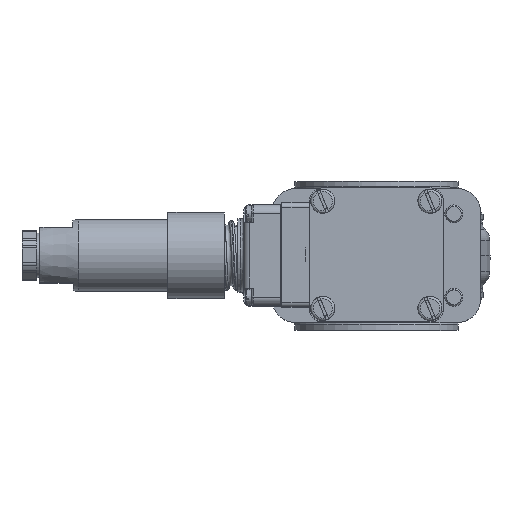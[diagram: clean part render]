
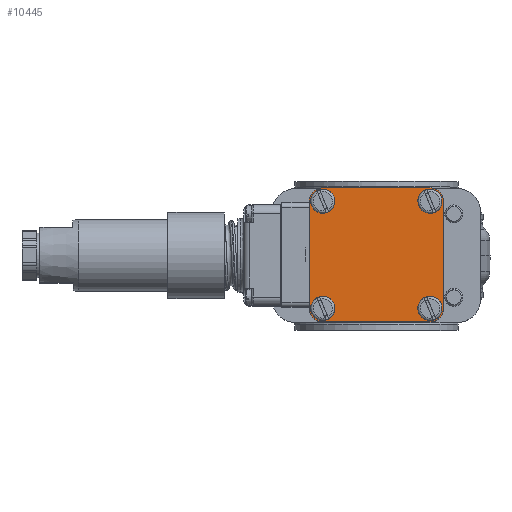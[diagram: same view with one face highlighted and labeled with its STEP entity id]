
A CAD part, top view. The second image highlights one B-rep face of the part: STEP entity #10445.
In plain terms, the highlighted planar face has unit normal (0, 0, 1) as drawn and (-1, 0, 0) by its records, which use the part's own axes.
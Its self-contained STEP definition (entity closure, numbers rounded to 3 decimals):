
#6396=LINE('',#40812,#8381);
#6397=LINE('',#40817,#8382);
#6398=LINE('',#40821,#8383);
#6399=LINE('',#40825,#8384);
#8381=VECTOR('',#32868,1.);
#8382=VECTOR('',#32871,1.);
#8383=VECTOR('',#32874,1.);
#8384=VECTOR('',#32877,1.);
#10445=ADVANCED_FACE('',(#13738,#13739,#13740,#13741,#13742),#11813,.T.);
#11813=PLANE('',#30234);
#13738=FACE_BOUND('',#14545,.T.);
#13739=FACE_BOUND('',#14546,.T.);
#13740=FACE_BOUND('',#14547,.T.);
#13741=FACE_BOUND('',#14548,.T.);
#13742=FACE_BOUND('',#14549,.T.);
#14545=EDGE_LOOP('',(#17044));
#14546=EDGE_LOOP('',(#17045));
#14547=EDGE_LOOP('',(#17046,#17047,#17048,#17049,#17050,#17051,#17052,#17053));
#14548=EDGE_LOOP('',(#17054));
#14549=EDGE_LOOP('',(#17055));
#17044=ORIENTED_EDGE('',*,*,#26094,.T.);
#17045=ORIENTED_EDGE('',*,*,#26095,.T.);
#17046=ORIENTED_EDGE('',*,*,#26096,.T.);
#17047=ORIENTED_EDGE('',*,*,#26097,.T.);
#17048=ORIENTED_EDGE('',*,*,#26098,.T.);
#17049=ORIENTED_EDGE('',*,*,#26099,.T.);
#17050=ORIENTED_EDGE('',*,*,#26100,.T.);
#17051=ORIENTED_EDGE('',*,*,#26101,.T.);
#17052=ORIENTED_EDGE('',*,*,#26102,.T.);
#17053=ORIENTED_EDGE('',*,*,#26103,.T.);
#17054=ORIENTED_EDGE('',*,*,#26104,.T.);
#17055=ORIENTED_EDGE('',*,*,#26105,.T.);
#23536=VERTEX_POINT('',#40809);
#23537=VERTEX_POINT('',#40811);
#23538=VERTEX_POINT('',#40813);
#23539=VERTEX_POINT('',#40814);
#23540=VERTEX_POINT('',#40816);
#23541=VERTEX_POINT('',#40818);
#23542=VERTEX_POINT('',#40820);
#23543=VERTEX_POINT('',#40822);
#23544=VERTEX_POINT('',#40824);
#23545=VERTEX_POINT('',#40826);
#23546=VERTEX_POINT('',#40829);
#23547=VERTEX_POINT('',#40831);
#26094=EDGE_CURVE('',#23536,#23536,#29282,.T.);
#26095=EDGE_CURVE('',#23537,#23537,#29283,.T.);
#26096=EDGE_CURVE('',#23538,#23539,#6396,.T.);
#26097=EDGE_CURVE('',#23539,#23540,#29284,.T.);
#26098=EDGE_CURVE('',#23540,#23541,#6397,.T.);
#26099=EDGE_CURVE('',#23541,#23542,#29285,.T.);
#26100=EDGE_CURVE('',#23542,#23543,#6398,.T.);
#26101=EDGE_CURVE('',#23543,#23544,#29286,.T.);
#26102=EDGE_CURVE('',#23544,#23545,#6399,.T.);
#26103=EDGE_CURVE('',#23545,#23538,#29287,.T.);
#26104=EDGE_CURVE('',#23546,#23546,#29288,.T.);
#26105=EDGE_CURVE('',#23547,#23547,#29289,.T.);
#29282=CIRCLE('',#30226,2.8);
#29283=CIRCLE('',#30227,2.8);
#29284=CIRCLE('',#30228,4.5);
#29285=CIRCLE('',#30229,4.5);
#29286=CIRCLE('',#30230,4.5);
#29287=CIRCLE('',#30231,4.5);
#29288=CIRCLE('',#30232,2.8);
#29289=CIRCLE('',#30233,2.8);
#30226=AXIS2_PLACEMENT_3D('',#40808,#32864,#32865);
#30227=AXIS2_PLACEMENT_3D('',#40810,#32866,#32867);
#30228=AXIS2_PLACEMENT_3D('',#40815,#32869,#32870);
#30229=AXIS2_PLACEMENT_3D('',#40819,#32872,#32873);
#30230=AXIS2_PLACEMENT_3D('',#40823,#32875,#32876);
#30231=AXIS2_PLACEMENT_3D('',#40827,#32878,#32879);
#30232=AXIS2_PLACEMENT_3D('',#40828,#32880,#32881);
#30233=AXIS2_PLACEMENT_3D('',#40830,#32882,#32883);
#30234=AXIS2_PLACEMENT_3D('',#40832,#32884,#32885);
#32864=DIRECTION('',(1.,0.,0.));
#32865=DIRECTION('',(0.,0.,1.));
#32866=DIRECTION('',(1.,0.,0.));
#32867=DIRECTION('',(0.,0.,1.));
#32868=DIRECTION('',(0.,1.,0.));
#32869=DIRECTION('',(-1.,0.,0.));
#32870=DIRECTION('',(0.,0.,1.));
#32871=DIRECTION('',(0.,0.,-1.));
#32872=DIRECTION('',(-1.,0.,0.));
#32873=DIRECTION('',(0.,1.,0.));
#32874=DIRECTION('',(0.,-1.,0.));
#32875=DIRECTION('',(-1.,0.,0.));
#32876=DIRECTION('',(0.,0.,-1.));
#32877=DIRECTION('',(0.,0.,1.));
#32878=DIRECTION('',(-1.,0.,0.));
#32879=DIRECTION('',(0.,0.,1.));
#32880=DIRECTION('',(1.,0.,0.));
#32881=DIRECTION('',(0.,0.,1.));
#32882=DIRECTION('',(1.,0.,0.));
#32883=DIRECTION('',(0.,0.,1.));
#32884=DIRECTION('',(-1.,0.,0.));
#32885=DIRECTION('',(0.,0.,1.));
#40808=CARTESIAN_POINT('',(0.,4.5,4.5));
#40809=CARTESIAN_POINT('',(0.,4.5,7.3));
#40810=CARTESIAN_POINT('',(0.,40.5,40.5));
#40811=CARTESIAN_POINT('',(0.,40.5,43.3));
#40812=CARTESIAN_POINT('',(0.,4.5,45.));
#40813=CARTESIAN_POINT('',(0.,4.5,45.));
#40814=CARTESIAN_POINT('',(0.,40.5,45.));
#40815=CARTESIAN_POINT('',(0.,40.5,40.5));
#40816=CARTESIAN_POINT('',(0.,45.,40.5));
#40817=CARTESIAN_POINT('',(0.,45.,40.5));
#40818=CARTESIAN_POINT('',(0.,45.,4.5));
#40819=CARTESIAN_POINT('',(0.,40.5,4.5));
#40820=CARTESIAN_POINT('',(0.,40.5,0.));
#40821=CARTESIAN_POINT('',(0.,40.5,0.));
#40822=CARTESIAN_POINT('',(0.,4.5,0.));
#40823=CARTESIAN_POINT('',(0.,4.5,4.5));
#40824=CARTESIAN_POINT('',(0.,0.,4.5));
#40825=CARTESIAN_POINT('',(0.,0.,4.5));
#40826=CARTESIAN_POINT('',(0.,0.,40.5));
#40827=CARTESIAN_POINT('',(0.,4.5,40.5));
#40828=CARTESIAN_POINT('',(0.,40.5,4.5));
#40829=CARTESIAN_POINT('',(0.,40.5,7.3));
#40830=CARTESIAN_POINT('',(0.,4.5,40.5));
#40831=CARTESIAN_POINT('',(0.,4.5,43.3));
#40832=CARTESIAN_POINT('',(0.,40.5,40.5));
